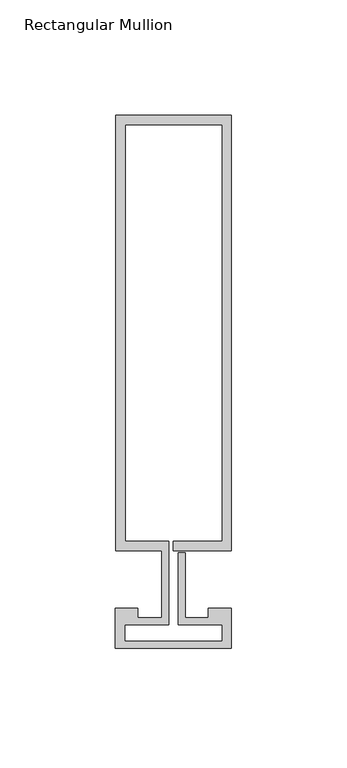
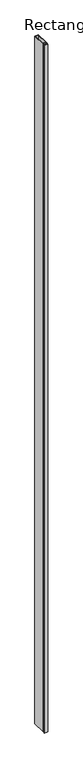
"""IFC4 building model written with IfcOpenShell, lengths in millimetres: member geometry, Rectangular Mullion : Reynaers_CW-50_Mullion-Transom_Vertical_188.5mm_Facecap-02B."""

from ifc_helpers import new_model, si_unit, frame, origin, place, context, project, spatial, polyline, outline, extrude, source, transform, mapped, element, save


def rectangular_mullion_aae8f897(model_context):
    return source(origin(), model_context, "Body", "SweptSolid", [
        extrude(outline(polyline([(-24.8004059, 201.0), (25.1995941, 201.0), (25.1995941, 12.5), (0.0, 12.5), (0.0, 16.5), (21.1995941, 16.5), (21.1995941, 197.0), (-20.8004059, 197.0), (-20.8004059, 16.5), (-1.9004059, 16.5), (-1.9004059, -19.5), (-20.994845, -19.5), (-20.994845, -26.7191338), (21.1995941, -26.7191338), (21.1995941, -19.5), (2.2995941, -19.5), (2.2995941, 11.5), (5.2995941, 11.5), (5.2995941, -16.5), (15.2996495, -16.5), (15.2996495, -12.5), (25.1995941, -12.5), (25.1995941, -29.8), (-24.994845, -29.8), (-24.994845, -12.5), (-15.2996495, -12.5), (-15.2996495, -16.5), (-4.9004059, -16.5), (-4.9004059, 12.5), (-24.8004059, 12.5), (-24.8004059, 201.0)])), frame((0.0, 0.0, -10400.0), z_axis=(0.0, 0.0, 1.0), x_axis=(1.0, 0.0, 0.0)), (0.0, 0.0, 1.0), 10400.0),
    ])


if __name__ == "__main__":
    model = new_model("IFC4")
    model_context = context("Model", 3, world=origin())
    ifc_project = project(units=[si_unit("LENGTHUNIT", "METRE", prefix="MILLI")], contexts=[model_context])
    site = spatial("IfcSite", under=ifc_project)
    building = spatial("IfcBuilding", under=site)
    placement = place(None, origin())
    rectangular_mullion_shape = rectangular_mullion_aae8f897(model_context)
    element("IfcMember", 1, ObjectType="Rectangular Mullion : Reynaers_CW-50_Mullion-Transom_Vertical_188.5mm_Facecap-02B", at=placement, inside=building, context=model_context, shape_type="MappedRepresentation", body=[
        mapped(rectangular_mullion_shape, transform((0.0, 0.0, 0.0), x_axis=(1.0, 0.0, 0.0), y_axis=(0.0, 1.0, 0.0), z_axis=(0.0, 0.0, 1.0))),
    ])
    save(model, "model.ifc")
